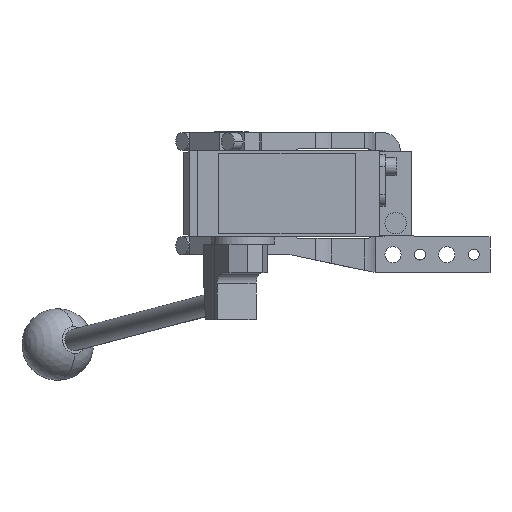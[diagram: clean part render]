
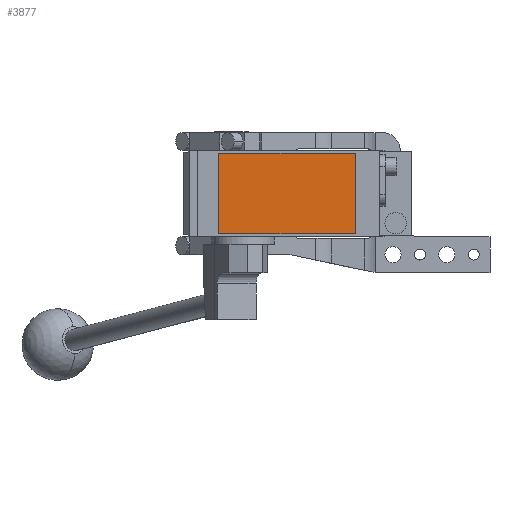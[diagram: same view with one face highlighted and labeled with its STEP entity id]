
A CAD part, front view. The second image highlights one B-rep face of the part: STEP entity #3877.
In plain terms, the highlighted planar face has unit normal (0, -1, 0).
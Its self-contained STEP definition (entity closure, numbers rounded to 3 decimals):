
#288 = VECTOR ( 'NONE', #6334, 1000. ) ;
#326 = CARTESIAN_POINT ( 'NONE',  ( 69., -280.5, 22.5 ) ) ;
#696 = CARTESIAN_POINT ( 'NONE',  ( 0., -280.5, 0. ) ) ;
#1069 = VERTEX_POINT ( 'NONE', #7447 ) ;
#1402 = VECTOR ( 'NONE', #11392, 1000. ) ;
#1624 = VECTOR ( 'NONE', #13616, 1000. ) ;
#1832 = EDGE_LOOP ( 'NONE', ( #9631, #11245, #5352, #3930 ) ) ;
#1941 = CARTESIAN_POINT ( 'NONE',  ( 69., -280.5, 22.5 ) ) ;
#2711 = LINE ( 'NONE', #7297, #10215 ) ;
#2894 = CARTESIAN_POINT ( 'NONE',  ( -7., -280.5, 22.5 ) ) ;
#2958 = VERTEX_POINT ( 'NONE', #7147 ) ;
#2969 = FACE_OUTER_BOUND ( 'NONE', #1832, .T. ) ;
#3877 = ADVANCED_FACE ( 'NONE', ( #2969 ), #6694, .T. ) ;
#3930 = ORIENTED_EDGE ( 'NONE', *, *, #9267, .T. ) ;
#4092 = CARTESIAN_POINT ( 'NONE',  ( 69., -280.5, -22.5 ) ) ;
#5289 = EDGE_CURVE ( 'NONE', #2958, #1069, #13031, .T. ) ;
#5352 = ORIENTED_EDGE ( 'NONE', *, *, #10866, .T. ) ;
#6334 = DIRECTION ( 'NONE',  ( 0., 0., -1. ) ) ;
#6694 = PLANE ( 'NONE',  #7106 ) ;
#7106 = AXIS2_PLACEMENT_3D ( 'NONE', #696, #11291, #13623 ) ;
#7147 = CARTESIAN_POINT ( 'NONE',  ( -7., -280.5, 22.5 ) ) ;
#7297 = CARTESIAN_POINT ( 'NONE',  ( -7., -280.5, 22.5 ) ) ;
#7447 = CARTESIAN_POINT ( 'NONE',  ( -7., -280.5, -22.5 ) ) ;
#7685 = VERTEX_POINT ( 'NONE', #326 ) ;
#8810 = LINE ( 'NONE', #1941, #1624 ) ;
#8985 = LINE ( 'NONE', #11153, #1402 ) ;
#9267 = EDGE_CURVE ( 'NONE', #7685, #2958, #2711, .T. ) ;
#9631 = ORIENTED_EDGE ( 'NONE', *, *, #5289, .T. ) ;
#10215 = VECTOR ( 'NONE', #10904, 1000. ) ;
#10866 = EDGE_CURVE ( 'NONE', #11955, #7685, #8810, .T. ) ;
#10904 = DIRECTION ( 'NONE',  ( -1., 0., 0. ) ) ;
#11153 = CARTESIAN_POINT ( 'NONE',  ( -7., -280.5, -22.5 ) ) ;
#11245 = ORIENTED_EDGE ( 'NONE', *, *, #13421, .T. ) ;
#11291 = DIRECTION ( 'NONE',  ( 0., -1., 0. ) ) ;
#11392 = DIRECTION ( 'NONE',  ( 1., 0., 0. ) ) ;
#11955 = VERTEX_POINT ( 'NONE', #4092 ) ;
#13031 = LINE ( 'NONE', #2894, #288 ) ;
#13421 = EDGE_CURVE ( 'NONE', #1069, #11955, #8985, .T. ) ;
#13616 = DIRECTION ( 'NONE',  ( 0., 0., 1. ) ) ;
#13623 = DIRECTION ( 'NONE',  ( 0., 0., -1. ) ) ;
